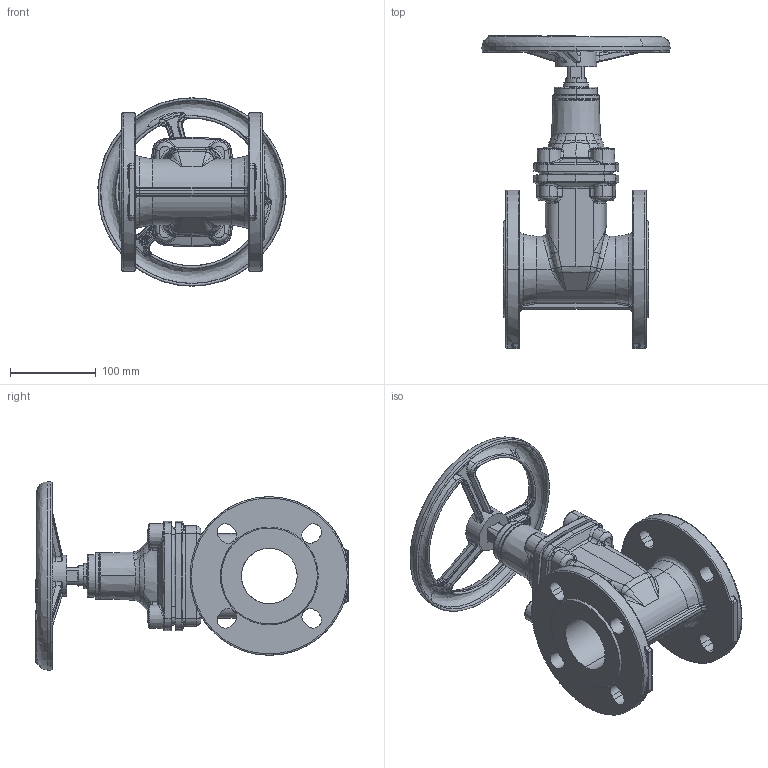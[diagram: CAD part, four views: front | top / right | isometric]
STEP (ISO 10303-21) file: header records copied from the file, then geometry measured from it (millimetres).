
FILE_DESCRIPTION (( 'STEP AP203' ), '1' );
FILE_NAME ('VOC4241C-00EP0065.STEP', '2021-11-17T15:16:05', ( '' ), ( '' ), 'SwSTEP 2.0', 'SolidWorks 2020', '' );
FILE_SCHEMA (( 'CONFIG_CONTROL_DESIGN' ));
Products named in the file (1): VOC4241C-00EP0065
Bounding box: 219.65 x 365.5 x 220 mm (x, y, z)
Surface area: 333711 mm2 (no closed solid volume)
Topology: 0 solids, 15 shells, 945 faces, 2874 edges, 1877 vertices
Faces by surface type: bspline 602, plane 137, cylinder 112, cone 78, torus 8, sphere 8
Entity records: 74574 total; most frequent: CARTESIAN_POINT 55302, ORIENTED_EDGE 5099, EDGE_CURVE 2855, DIRECTION 2041, VERTEX_POINT 1877, B_SPLINE_CURVE_WITH_KNOTS 1730, EDGE_LOOP 1012, FACE_OUTER_BOUND 945
